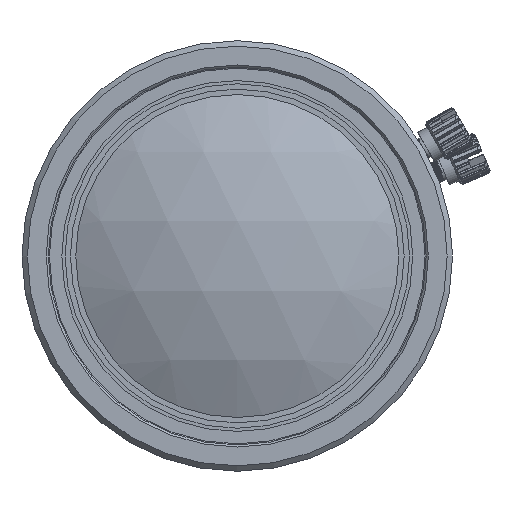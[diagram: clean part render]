
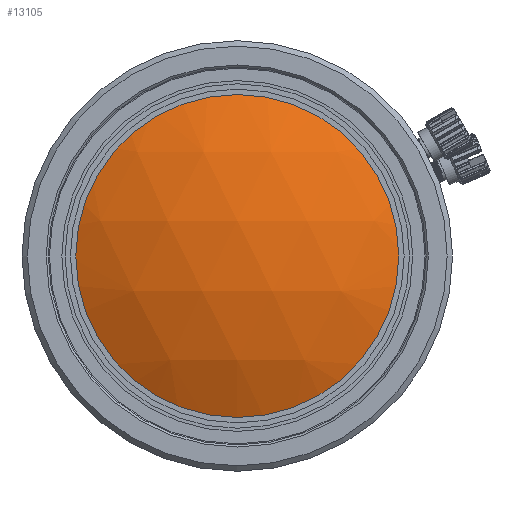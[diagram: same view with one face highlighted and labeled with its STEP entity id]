
A CAD part, left-side view. The second image highlights one B-rep face of the part: STEP entity #13105.
In plain terms, the highlighted spherical face has radius 34.168 mm.
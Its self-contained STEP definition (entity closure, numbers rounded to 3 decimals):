
#13=SPHERICAL_SURFACE('',#14300,34.168);
#2677=FACE_OUTER_BOUND('',#3426,.T.);
#3426=EDGE_LOOP('',(#11226));
#4360=CIRCLE('',#14301,15.75);
#5566=VERTEX_POINT('',#58848);
#7477=EDGE_CURVE('',#5566,#5566,#4360,.T.);
#11226=ORIENTED_EDGE('',*,*,#7477,.T.);
#13105=ADVANCED_FACE('',(#2677),#13,.T.);
#14300=AXIS2_PLACEMENT_3D('',#58847,#16940,#16941);
#14301=AXIS2_PLACEMENT_3D('',#58849,#16942,#16943);
#16940=DIRECTION('center_axis',(0.,0.,1.));
#16941=DIRECTION('ref_axis',(-1.,0.,0.));
#16942=DIRECTION('center_axis',(-1.,0.,0.));
#16943=DIRECTION('ref_axis',(0.,0.,-1.));
#58847=CARTESIAN_POINT('Origin',(-15.239,0.,0.));
#58848=CARTESIAN_POINT('',(-45.561,-15.75,0.));
#58849=CARTESIAN_POINT('Origin',(-45.561,0.,0.));
